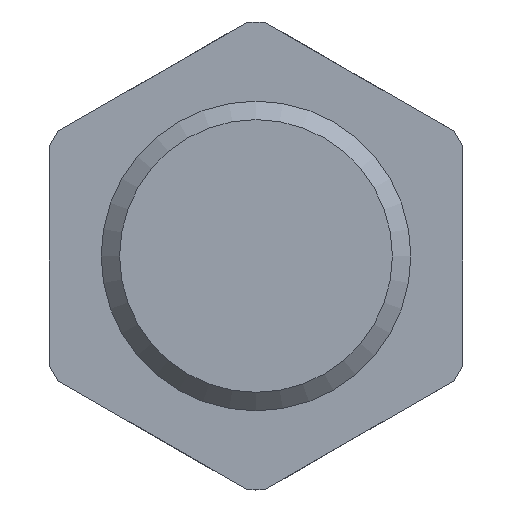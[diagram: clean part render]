
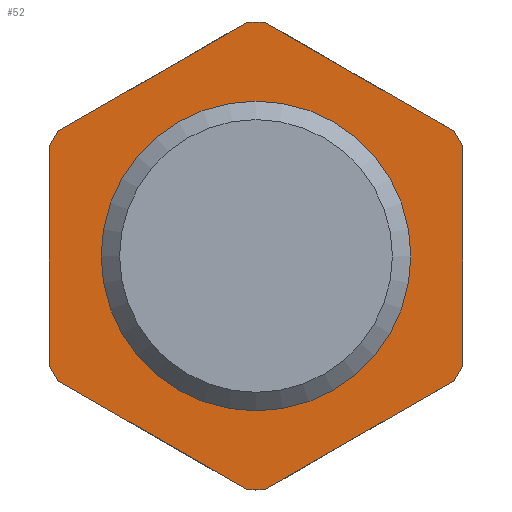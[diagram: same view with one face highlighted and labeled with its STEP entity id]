
A CAD part, front view. The second image highlights one B-rep face of the part: STEP entity #52.
In plain terms, the highlighted planar face has unit normal (0, -1, 0).
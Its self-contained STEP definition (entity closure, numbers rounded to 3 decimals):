
#52 = ADVANCED_FACE( '', ( #119, #120 ), #121, .F. );
#119 = FACE_BOUND( '', #209, .T. );
#120 = FACE_OUTER_BOUND( '', #210, .T. );
#121 = PLANE( '', #211 );
#209 = EDGE_LOOP( '', ( #337 ) );
#210 = EDGE_LOOP( '', ( #338, #339, #340, #341, #342, #343, #344, #345, #346, #347, #348, #349 ) );
#211 = AXIS2_PLACEMENT_3D( '', #350, #351, #352 );
#337 = ORIENTED_EDGE( '', *, *, #517, .F. );
#338 = ORIENTED_EDGE( '', *, *, #518, .T. );
#339 = ORIENTED_EDGE( '', *, *, #513, .T. );
#340 = ORIENTED_EDGE( '', *, *, #519, .T. );
#341 = ORIENTED_EDGE( '', *, *, #520, .T. );
#342 = ORIENTED_EDGE( '', *, *, #521, .T. );
#343 = ORIENTED_EDGE( '', *, *, #522, .T. );
#344 = ORIENTED_EDGE( '', *, *, #523, .T. );
#345 = ORIENTED_EDGE( '', *, *, #524, .T. );
#346 = ORIENTED_EDGE( '', *, *, #507, .T. );
#347 = ORIENTED_EDGE( '', *, *, #525, .T. );
#348 = ORIENTED_EDGE( '', *, *, #526, .T. );
#349 = ORIENTED_EDGE( '', *, *, #527, .T. );
#350 = CARTESIAN_POINT( '', ( 7.35, 6.2, 0. ) );
#351 = DIRECTION( '', ( 0., 1., 0. ) );
#352 = DIRECTION( '', ( 0., 0., 1. ) );
#507 = EDGE_CURVE( '', #578, #579, #580, .T. );
#513 = EDGE_CURVE( '', #590, #587, #591, .T. );
#517 = EDGE_CURVE( '', #596, #596, #597, .T. );
#518 = EDGE_CURVE( '', #598, #590, #599, .T. );
#519 = EDGE_CURVE( '', #587, #600, #601, .T. );
#520 = EDGE_CURVE( '', #600, #602, #603, .T. );
#521 = EDGE_CURVE( '', #602, #604, #605, .T. );
#522 = EDGE_CURVE( '', #604, #606, #607, .T. );
#523 = EDGE_CURVE( '', #606, #608, #609, .T. );
#524 = EDGE_CURVE( '', #608, #578, #610, .T. );
#525 = EDGE_CURVE( '', #579, #611, #612, .T. );
#526 = EDGE_CURVE( '', #611, #613, #614, .T. );
#527 = EDGE_CURVE( '', #613, #598, #615, .T. );
#578 = VERTEX_POINT( '', #682 );
#579 = VERTEX_POINT( '', #683 );
#580 = CIRCLE( '', #684, 7.35 );
#587 = VERTEX_POINT( '', #693 );
#590 = VERTEX_POINT( '', #697 );
#591 = LINE( '', #698, #699 );
#596 = VERTEX_POINT( '', #714 );
#597 = CIRCLE( '', #715, 4.35 );
#598 = VERTEX_POINT( '', #716 );
#599 = CIRCLE( '', #717, 7.35 );
#600 = VERTEX_POINT( '', #718 );
#601 = CIRCLE( '', #719, 7.35 );
#602 = VERTEX_POINT( '', #720 );
#603 = LINE( '', #721, #722 );
#604 = VERTEX_POINT( '', #723 );
#605 = CIRCLE( '', #724, 7.35 );
#606 = VERTEX_POINT( '', #725 );
#607 = LINE( '', #726, #727 );
#608 = VERTEX_POINT( '', #728 );
#609 = CIRCLE( '', #729, 7.35 );
#610 = LINE( '', #730, #731 );
#611 = VERTEX_POINT( '', #732 );
#612 = LINE( '', #733, #734 );
#613 = VERTEX_POINT( '', #735 );
#614 = CIRCLE( '', #736, 7.35 );
#615 = LINE( '', #737, #738 );
#682 = CARTESIAN_POINT( '', ( 6.5, 6.2, 3.431 ) );
#683 = CARTESIAN_POINT( '', ( 6.221, 6.2, 3.914 ) );
#684 = AXIS2_PLACEMENT_3D( '', #857, #858, #859 );
#693 = CARTESIAN_POINT( '', ( -6.5, 6.2, -3.431 ) );
#697 = CARTESIAN_POINT( '', ( -6.5, 6.2, 3.431 ) );
#698 = CARTESIAN_POINT( '', ( -6.5, 6.2, 0. ) );
#699 = VECTOR( '', #866, 1000. );
#714 = CARTESIAN_POINT( '', ( 0., 6.2, -4.35 ) );
#715 = AXIS2_PLACEMENT_3D( '', #868, #869, #870 );
#716 = CARTESIAN_POINT( '', ( -6.221, 6.2, 3.914 ) );
#717 = AXIS2_PLACEMENT_3D( '', #871, #872, #873 );
#718 = CARTESIAN_POINT( '', ( -6.221, 6.2, -3.914 ) );
#719 = AXIS2_PLACEMENT_3D( '', #874, #875, #876 );
#720 = CARTESIAN_POINT( '', ( -0.279, 6.2, -7.345 ) );
#721 = CARTESIAN_POINT( '', ( 2.263, 6.2, -8.812 ) );
#722 = VECTOR( '', #877, 1000. );
#723 = CARTESIAN_POINT( '', ( 0.279, 6.2, -7.345 ) );
#724 = AXIS2_PLACEMENT_3D( '', #878, #879, #880 );
#725 = CARTESIAN_POINT( '', ( 6.221, 6.2, -3.914 ) );
#726 = CARTESIAN_POINT( '', ( 8.763, 6.2, -2.447 ) );
#727 = VECTOR( '', #881, 1000. );
#728 = CARTESIAN_POINT( '', ( 6.5, 6.2, -3.431 ) );
#729 = AXIS2_PLACEMENT_3D( '', #882, #883, #884 );
#730 = CARTESIAN_POINT( '', ( 6.5, 6.2, 0. ) );
#731 = VECTOR( '', #885, 1000. );
#732 = CARTESIAN_POINT( '', ( 0.279, 6.2, 7.345 ) );
#733 = CARTESIAN_POINT( '', ( 8.763, 6.2, 2.447 ) );
#734 = VECTOR( '', #886, 1000. );
#735 = CARTESIAN_POINT( '', ( -0.279, 6.2, 7.345 ) );
#736 = AXIS2_PLACEMENT_3D( '', #887, #888, #889 );
#737 = CARTESIAN_POINT( '', ( 2.263, 6.2, 8.812 ) );
#738 = VECTOR( '', #890, 1000. );
#857 = CARTESIAN_POINT( '', ( 0., 6.2, 0. ) );
#858 = DIRECTION( '', ( 0., -1., 0. ) );
#859 = DIRECTION( '', ( 0., 0., -1. ) );
#866 = DIRECTION( '', ( 0., 0., -1. ) );
#868 = CARTESIAN_POINT( '', ( 0., 6.2, 0. ) );
#869 = DIRECTION( '', ( 0., -1., 0. ) );
#870 = DIRECTION( '', ( 0., 0., -1. ) );
#871 = CARTESIAN_POINT( '', ( 0., 6.2, 0. ) );
#872 = DIRECTION( '', ( 0., -1., 0. ) );
#873 = DIRECTION( '', ( 0., 0., -1. ) );
#874 = CARTESIAN_POINT( '', ( 0., 6.2, 0. ) );
#875 = DIRECTION( '', ( 0., -1., 0. ) );
#876 = DIRECTION( '', ( 0., 0., -1. ) );
#877 = DIRECTION( '', ( 0.866, 0., -0.5 ) );
#878 = CARTESIAN_POINT( '', ( 0., 6.2, 0. ) );
#879 = DIRECTION( '', ( 0., -1., 0. ) );
#880 = DIRECTION( '', ( 0., 0., -1. ) );
#881 = DIRECTION( '', ( 0.866, 0., 0.5 ) );
#882 = CARTESIAN_POINT( '', ( 0., 6.2, 0. ) );
#883 = DIRECTION( '', ( 0., -1., 0. ) );
#884 = DIRECTION( '', ( 0., 0., -1. ) );
#885 = DIRECTION( '', ( 0., 0., 1. ) );
#886 = DIRECTION( '', ( -0.866, 0., 0.5 ) );
#887 = CARTESIAN_POINT( '', ( 0., 6.2, 0. ) );
#888 = DIRECTION( '', ( 0., -1., 0. ) );
#889 = DIRECTION( '', ( 0., 0., -1. ) );
#890 = DIRECTION( '', ( -0.866, 0., -0.5 ) );
